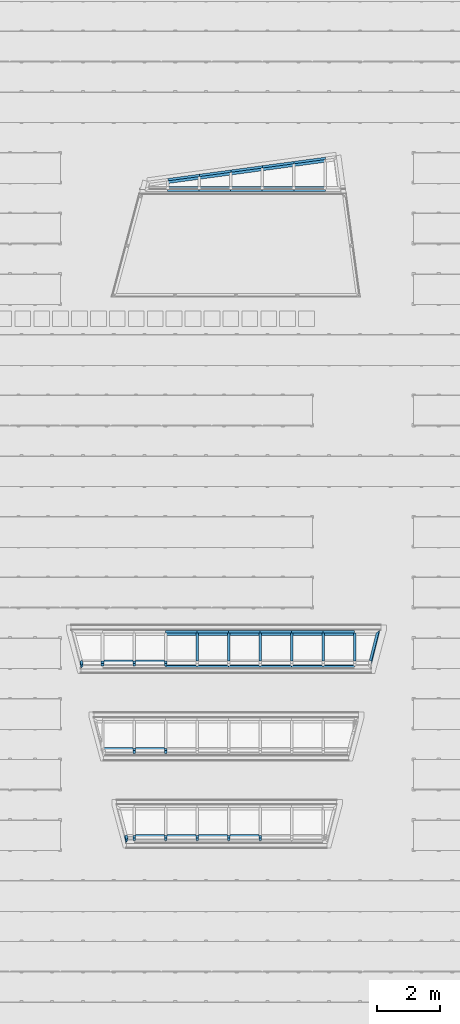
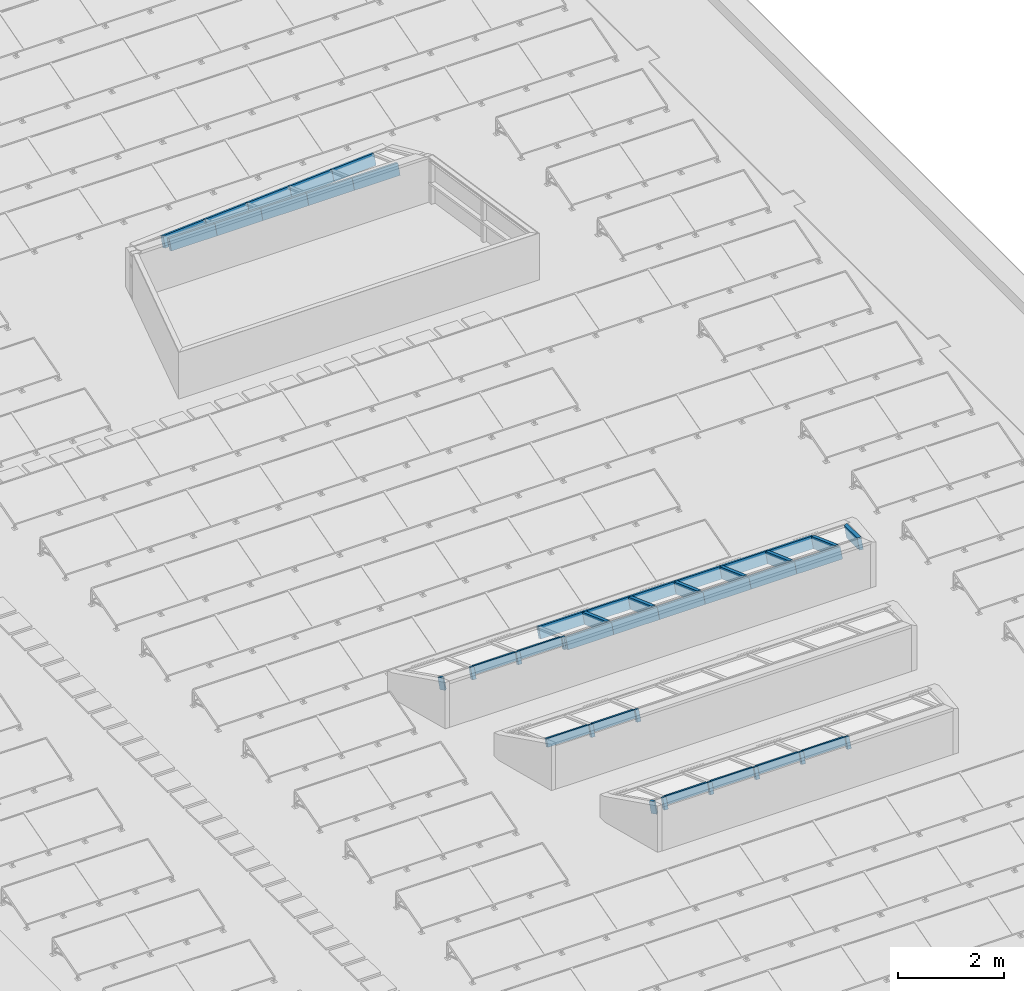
# One storey, part 2 of 20: 49 members, 4 elements without a shape of their own.
"""IFC2X3 building model written with IfcOpenShell, lengths in millimetres."""

from ifc_helpers import new_model, entity, si_unit, converted_unit, derived_unit, money_unit, direction, frame, origin_with_axes, place, context, subcontext, project, spatial, faceted_brep, source, transform, mapped, material, type_object, type_shapes, element, aggregate, save


model = new_model("IFC2X3")

# Units and contexts
model_context = context("Model", 3, precision=0.01, world=origin_with_axes(), true_north=direction((0.0, 1.0)))
plan_context = context("Plan", 3, precision=0.01, world=origin_with_axes(), true_north=direction((0.0, 1.0)))
body_context = subcontext(model_context, "Body", "Model", "MODEL_VIEW")
ifc_project = project(units=[si_unit("LENGTHUNIT", "METRE", prefix="MILLI"), si_unit("AREAUNIT", "SQUARE_METRE"), si_unit("VOLUMEUNIT", "CUBIC_METRE"), converted_unit("PLANEANGLEUNIT", "DEGREE", entity("IfcPlaneAngleMeasure", 0.0174532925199), si_unit("PLANEANGLEUNIT", "RADIAN"), dimensions=[0, 0, 0, 0, 0, 0, 0]), si_unit("SOLIDANGLEUNIT", "STERADIAN"), money_unit("EUR"), converted_unit("TIMEUNIT", "Year", entity("IfcTimeMeasure", 31556926.0), si_unit("TIMEUNIT", "SECOND"), dimensions=[0, 0, 1, 0, 0, 0, 0]), si_unit("MASSUNIT", "GRAM", prefix="KILO"), si_unit("THERMODYNAMICTEMPERATUREUNIT", "DEGREE_CELSIUS"), si_unit("LUMINOUSINTENSITYUNIT", "LUMEN"), si_unit("ENERGYUNIT", "JOULE", prefix="MEGA"), derived_unit("THERMALCONDUCTANCEUNIT", [(si_unit("POWERUNIT", "WATT"), 1), (si_unit("LENGTHUNIT", "METRE"), -1), (si_unit("THERMODYNAMICTEMPERATUREUNIT", "KELVIN"), -1)]), derived_unit("SPECIFICHEATCAPACITYUNIT", [(si_unit("ENERGYUNIT", "JOULE"), 1), (si_unit("MASSUNIT", "GRAM", prefix="KILO"), -1), (si_unit("THERMODYNAMICTEMPERATUREUNIT", "KELVIN"), -1)]), derived_unit("MASSDENSITYUNIT", [(si_unit("MASSUNIT", "GRAM", prefix="KILO"), 1), (si_unit("VOLUMEUNIT", "CUBIC_METRE"), -1)])], contexts=[model_context, plan_context])

# Site, building, storey
site_placement = place(None, origin_with_axes())
site = spatial("IfcSite", under=ifc_project, at=site_placement, Name="Site", CompositionType="ELEMENT")
building_placement = place(site_placement, origin_with_axes())
building = spatial("IfcBuilding", under=site, at=building_placement, Name="Naam gebouw", CompositionType="ELEMENT")
storey_placement = place(building_placement, frame((0.0, 0.0, 7920.0), z_axis=(0.0, 0.0, 1.0), x_axis=(1.0, 0.0, 0.0)))
storey = spatial("IfcBuildingStorey", under=building, at=storey_placement, Name="2e verdieping", CompositionType="ELEMENT", Elevation=7920.0)

# Curtain wall, members
curtain_wall_type = type_object("IfcCurtainWallType", Name="Curtain Wall Type", PredefinedType="NOTDEFINED")
curtain_wall_1_placement = place(storey_placement, frame((19106.1234546, 39361.8774302, 819.822664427), z_axis=(0.0, 0.0, 1.0), x_axis=(1.0, 0.0, 0.0)))
curtain_wall_1 = element("IfcCurtainWall", 1, at=curtain_wall_1_placement, inside=storey, type_object=curtain_wall_type, Name="21_Vliesgevel_Wand-x")
ifc_material = material(Name="Metaal - Staal AFW")
member_type_1 = type_object("IfcMemberType", Name="Boundary Frame 80 x 250", PredefinedType="MULLION")
shared_shape_1 = source(origin_with_axes(), body_context, "Body", "Brep", [
    faceted_brep([(-80.0, -200.0, -1.49766978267e-07), (-80.0, -200.0, 1000.00000025), (-80.0, 50.0, 1000.00000025), (-80.0, 50.0, -1.49766978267e-07), (0.0, -200.0, -1.49766978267e-07), (0.0, -200.0, 1000.00000025), (0.0, 50.0, 1000.00000025), (0.0, 50.0, -1.49766978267e-07)], [[[0, 1, 2, 3]], [[4, 5, 1, 0]], [[1, 5, 6, 2]], [[3, 2, 6, 7]], [[0, 3, 7, 4]], [[7, 6, 5, 4]]]),
])
member_1_placement = place(curtain_wall_1_placement, frame((-2500.0, -399.781763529, 382.086909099), z_axis=(-1.0, 3.51837314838e-09, -1.280582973e-09), x_axis=(3.74417445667e-09, 0.939692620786, -0.342020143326)))
member_1 = element("IfcMember", 2, at=member_1_placement, type_object=member_type_1, material=ifc_material, Name="_Vliesgevel - kader_Kader-x", ObjectType="MULLION", context=body_context, shape_type="MappedRepresentation", body=[
    mapped(shared_shape_1, transform((0.0, 0.0, 0.0), x_axis=(-1.0, 0.0, -4.37985229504e-10), y_axis=(0.0, -1.0, -1.20335434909e-09), z_axis=(-4.37985229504e-10, -1.20335434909e-09, 1.0))),
])
member_2_placement = place(curtain_wall_1_placement, frame((-1500.0, -399.781763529, 382.086909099), z_axis=(-1.0, 0.0, 0.0), x_axis=(0.0, 0.939692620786, -0.342020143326)))
member_2 = element("IfcMember", 3, at=member_2_placement, type_object=member_type_1, material=ifc_material, Name="_Vliesgevel - kader_Kader-x", ObjectType="MULLION", context=body_context, shape_type="MappedRepresentation", body=[
    mapped(shared_shape_1, transform((0.0, 0.0, 0.0), x_axis=(-1.0, 0.0, 0.0), y_axis=(0.0, -1.0, 0.0), z_axis=(0.0, 0.0, 1.0))),
])
member_3_placement = place(curtain_wall_1_placement, frame((-500.0, -399.781763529, 382.086909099), z_axis=(-1.0, 0.0, 0.0), x_axis=(0.0, 0.939692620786, -0.342020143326)))
member_3 = element("IfcMember", 4, at=member_3_placement, type_object=member_type_1, material=ifc_material, Name="_Vliesgevel - kader_Kader-x", ObjectType="MULLION", context=body_context, shape_type="MappedRepresentation", body=[
    mapped(shared_shape_1, transform((0.0, 0.0, 0.0), x_axis=(-1.0, 0.0, 0.0), y_axis=(0.0, -1.0, 0.0), z_axis=(0.0, 0.0, 1.0))),
])
member_4_placement = place(curtain_wall_1_placement, frame((500.0, -399.781763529, 382.086909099), z_axis=(-1.0, 0.0, 0.0), x_axis=(0.0, 0.939692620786, -0.342020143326)))
member_4 = element("IfcMember", 5, at=member_4_placement, type_object=member_type_1, material=ifc_material, Name="_Vliesgevel - kader_Kader-x", ObjectType="MULLION", context=body_context, shape_type="MappedRepresentation", body=[
    mapped(shared_shape_1, transform((0.0, 0.0, 0.0), x_axis=(-1.0, 0.0, 0.0), y_axis=(0.0, -1.0, 0.0), z_axis=(0.0, 0.0, 1.0))),
])
member_5_placement = place(curtain_wall_1_placement, frame((1500.0, -399.781763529, 382.086909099), z_axis=(-1.0, 0.0, 0.0), x_axis=(0.0, 0.939692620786, -0.342020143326)))
member_5 = element("IfcMember", 6, at=member_5_placement, type_object=member_type_1, material=ifc_material, Name="_Vliesgevel - kader_Kader-x", ObjectType="MULLION", context=body_context, shape_type="MappedRepresentation", body=[
    mapped(shared_shape_1, transform((0.0, 0.0, 0.0), x_axis=(-1.0, 0.0, 0.0), y_axis=(0.0, -1.0, 0.0), z_axis=(0.0, 0.0, 1.0))),
])

curtain_wall_2_placement = place(storey_placement, frame((13117.0960946, 24464.1241022, 780.165825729), z_axis=(0.0, 0.0, 1.0), x_axis=(1.0, 0.0, 0.0)))
curtain_wall_2 = element("IfcCurtainWall", 7, at=curtain_wall_2_placement, inside=storey, type_object=curtain_wall_type, Name="21_Vliesgevel_Wand-x")
member_6_placement = place(curtain_wall_2_placement, frame((3422.02873258, -628.292622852, 404.355344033), z_axis=(-1.0, 0.0, 0.0), x_axis=(0.0, 0.939692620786, -0.342020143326)))
member_6 = element("IfcMember", 8, at=member_6_placement, type_object=member_type_1, material=ifc_material, Name="_Vliesgevel - kader_Kader-x", ObjectType="MULLION", context=body_context, shape_type="MappedRepresentation", body=[
    mapped(shared_shape_1, transform((0.0, 0.0, 0.0), x_axis=(-1.0, 0.0, 0.0), y_axis=(0.0, -1.0, 0.0), z_axis=(0.0, 0.0, 1.0))),
])
member_7_placement = place(curtain_wall_2_placement, frame((4422.02873258, -628.292622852, 404.355344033), z_axis=(-1.0, 0.0, 0.0), x_axis=(0.0, 0.939692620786, -0.342020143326)))
member_7 = element("IfcMember", 9, at=member_7_placement, type_object=member_type_1, material=ifc_material, Name="_Vliesgevel - kader_Kader-x", ObjectType="MULLION", context=body_context, shape_type="MappedRepresentation", body=[
    mapped(shared_shape_1, transform((0.0, 0.0, 0.0), x_axis=(-1.0, 0.0, 0.0), y_axis=(0.0, -1.0, 0.0), z_axis=(0.0, 0.0, 1.0))),
])
member_8_placement = place(curtain_wall_2_placement, frame((5422.02873258, -628.292622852, 404.355344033), z_axis=(-1.0, 0.0, 0.0), x_axis=(0.0, 0.939692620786, -0.342020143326)))
member_8 = element("IfcMember", 10, at=member_8_placement, type_object=member_type_1, material=ifc_material, Name="_Vliesgevel - kader_Kader-x", ObjectType="MULLION", context=body_context, shape_type="MappedRepresentation", body=[
    mapped(shared_shape_1, transform((0.0, 0.0, 0.0), x_axis=(-1.0, 0.0, 0.0), y_axis=(0.0, -1.0, 0.0), z_axis=(0.0, 0.0, 1.0))),
])
member_9_placement = place(curtain_wall_2_placement, frame((6422.02873258, -628.292622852, 404.355344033), z_axis=(-1.0, 0.0, 0.0), x_axis=(0.0, 0.939692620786, -0.342020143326)))
member_9 = element("IfcMember", 11, at=member_9_placement, type_object=member_type_1, material=ifc_material, Name="_Vliesgevel - kader_Kader-x", ObjectType="MULLION", context=body_context, shape_type="MappedRepresentation", body=[
    mapped(shared_shape_1, transform((0.0, 0.0, 0.0), x_axis=(-1.0, 0.0, 0.0), y_axis=(0.0, -1.0, 0.0), z_axis=(0.0, 0.0, 1.0))),
])
member_10_placement = place(curtain_wall_2_placement, frame((7422.02873258, -628.292622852, 404.355344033), z_axis=(-1.0, 0.0, 0.0), x_axis=(0.0, 0.939692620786, -0.342020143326)))
member_10 = element("IfcMember", 12, at=member_10_placement, type_object=member_type_1, material=ifc_material, Name="_Vliesgevel - kader_Kader-x", ObjectType="MULLION", context=body_context, shape_type="MappedRepresentation", body=[
    mapped(shared_shape_1, transform((0.0, 0.0, 0.0), x_axis=(-1.0, 0.0, 0.0), y_axis=(0.0, -1.0, 0.0), z_axis=(0.0, 0.0, 1.0))),
])
member_11_placement = place(curtain_wall_2_placement, frame((8422.02873258, -628.292622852, 404.355344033), z_axis=(-1.0, 0.0, 0.0), x_axis=(0.0, 0.939692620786, -0.342020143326)))
member_11 = element("IfcMember", 13, at=member_11_placement, type_object=member_type_1, material=ifc_material, Name="_Vliesgevel - kader_Kader-x", ObjectType="MULLION", context=body_context, shape_type="MappedRepresentation", body=[
    mapped(shared_shape_1, transform((0.0, 0.0, 0.0), x_axis=(-1.0, 0.0, 0.0), y_axis=(0.0, -1.0, 0.0), z_axis=(0.0, 0.0, 1.0))),
])
member_12_placement = place(curtain_wall_2_placement, frame((7422.02873258, 482.66459094, -1.33306361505e-05), z_axis=(1.0, -2.66563304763e-08, 9.70211122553e-09), x_axis=(-2.83670745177e-08, -0.939692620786, 0.342020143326)))
member_12 = element("IfcMember", 14, at=member_12_placement, type_object=member_type_1, material=ifc_material, Name="_Vliesgevel - kader_Kader-x", ObjectType="MULLION", context=body_context, shape_type="MappedRepresentation", body=[
    mapped(shared_shape_1, transform((0.0, 0.0, 0.0), x_axis=(-1.0, 0.0, -3.31831741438e-09), y_axis=(0.0, -1.0, 9.11700234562e-09), z_axis=(-3.31831741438e-09, 9.11700234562e-09, 1.0))),
])
member_13_placement = place(curtain_wall_2_placement, frame((6422.02873258, 482.66459094, -1.33306361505e-05), z_axis=(1.0, 0.0, 0.0), x_axis=(0.0, -0.939692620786, 0.342020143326)))
member_13 = element("IfcMember", 15, at=member_13_placement, type_object=member_type_1, material=ifc_material, Name="_Vliesgevel - kader_Kader-x", ObjectType="MULLION", context=body_context, shape_type="MappedRepresentation", body=[
    mapped(shared_shape_1, transform((0.0, 0.0, 0.0), x_axis=(-1.0, 0.0, 0.0), y_axis=(0.0, -1.0, 0.0), z_axis=(0.0, 0.0, 1.0))),
])
member_14_placement = place(curtain_wall_2_placement, frame((5422.02873258, 482.66459094, -1.33306361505e-05), z_axis=(1.0, 0.0, 0.0), x_axis=(0.0, -0.939692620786, 0.342020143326)))
member_14 = element("IfcMember", 16, at=member_14_placement, type_object=member_type_1, material=ifc_material, Name="_Vliesgevel - kader_Kader-x", ObjectType="MULLION", context=body_context, shape_type="MappedRepresentation", body=[
    mapped(shared_shape_1, transform((0.0, 0.0, 0.0), x_axis=(-1.0, 0.0, 0.0), y_axis=(0.0, -1.0, 0.0), z_axis=(0.0, 0.0, 1.0))),
])
member_15_placement = place(curtain_wall_2_placement, frame((4422.02873258, 482.66459094, -1.33306361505e-05), z_axis=(1.0, 0.0, 0.0), x_axis=(0.0, -0.939692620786, 0.342020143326)))
member_15 = element("IfcMember", 17, at=member_15_placement, type_object=member_type_1, material=ifc_material, Name="_Vliesgevel - kader_Kader-x", ObjectType="MULLION", context=body_context, shape_type="MappedRepresentation", body=[
    mapped(shared_shape_1, transform((0.0, 0.0, 0.0), x_axis=(-1.0, 0.0, 0.0), y_axis=(0.0, -1.0, 0.0), z_axis=(0.0, 0.0, 1.0))),
])
member_16_placement = place(curtain_wall_2_placement, frame((3422.02873258, 482.66459094, -1.33306361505e-05), z_axis=(1.0, 0.0, 0.0), x_axis=(0.0, -0.939692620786, 0.342020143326)))
member_16 = element("IfcMember", 18, at=member_16_placement, type_object=member_type_1, material=ifc_material, Name="_Vliesgevel - kader_Kader-x", ObjectType="MULLION", context=body_context, shape_type="MappedRepresentation", body=[
    mapped(shared_shape_1, transform((0.0, 0.0, 0.0), x_axis=(-1.0, 0.0, 0.0), y_axis=(0.0, -1.0, 0.0), z_axis=(0.0, 0.0, 1.0))),
])
member_17_placement = place(curtain_wall_2_placement, frame((2422.02873258, 482.66459094, -1.33306361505e-05), z_axis=(1.0, 0.0, 0.0), x_axis=(0.0, -0.939692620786, 0.342020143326)))
member_17 = element("IfcMember", 19, at=member_17_placement, type_object=member_type_1, material=ifc_material, Name="_Vliesgevel - kader_Kader-x", ObjectType="MULLION", context=body_context, shape_type="MappedRepresentation", body=[
    mapped(shared_shape_1, transform((0.0, 0.0, 0.0), x_axis=(-1.0, 0.0, 0.0), y_axis=(0.0, -1.0, 0.0), z_axis=(0.0, 0.0, 1.0))),
])

# Member
shared_shape_2 = source(origin_with_axes(), body_context, "Body", "Brep", [
    faceted_brep([(-80.0, -200.0, -2.83497562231e-06), (-80.0, -200.0, 1010.33344647), (-80.0, 50.0, 1010.33344647), (-80.0, 50.0, -2.83497562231e-06), (0.0, -200.0, -2.83497562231e-06), (0.0, -200.0, 1010.33344647), (0.0, 50.0, 1010.33344647), (0.0, 50.0, -2.83497562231e-06)], [[[0, 1, 2, 3]], [[4, 5, 1, 0]], [[1, 5, 6, 2]], [[3, 2, 6, 7]], [[0, 3, 7, 4]], [[7, 6, 5, 4]]]),
])
member_18_placement = place(curtain_wall_1_placement, frame((500.0, 467.501021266, 66.4217907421), z_axis=(0.989772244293, 0.134053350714, -0.0487914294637), x_axis=(0.142656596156, -0.930081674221, 0.338522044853)))
member_18 = element("IfcMember", 20, at=member_18_placement, type_object=member_type_1, material=ifc_material, Name="_Vliesgevel - kader_Kader-x", ObjectType="MULLION", context=body_context, shape_type="MappedRepresentation", body=[
    mapped(shared_shape_2, transform((0.0, 0.0, 0.0), x_axis=(-1.0, 0.0, 0.0), y_axis=(0.0, -1.0, 0.0), z_axis=(0.0, 0.0, 1.0))),
])

member_19_placement = place(curtain_wall_1_placement, frame((-500.0, 332.062505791, 115.717378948), z_axis=(0.989772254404, 0.134053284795, -0.0487914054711), x_axis=(0.142656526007, -0.930081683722, 0.338522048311)))
member_19 = element("IfcMember", 21, at=member_19_placement, type_object=member_type_1, material=ifc_material, Name="_Vliesgevel - kader_Kader-x", ObjectType="MULLION", context=body_context, shape_type="MappedRepresentation", body=[
    mapped(shared_shape_2, transform((0.0, 0.0, 0.0), x_axis=(-1.0, 0.0, 0.0), y_axis=(0.0, -1.0, 0.0), z_axis=(0.0, 0.0, 1.0))),
])

member_20_placement = place(curtain_wall_1_placement, frame((-1500.0, 196.623990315, 165.012967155), z_axis=(0.989772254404, 0.134053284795, -0.0487914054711), x_axis=(0.142656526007, -0.930081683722, 0.338522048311)))
member_20 = element("IfcMember", 22, at=member_20_placement, type_object=member_type_1, material=ifc_material, Name="_Vliesgevel - kader_Kader-x", ObjectType="MULLION", context=body_context, shape_type="MappedRepresentation", body=[
    mapped(shared_shape_2, transform((0.0, 0.0, 0.0), x_axis=(-1.0, 0.0, 0.0), y_axis=(0.0, -1.0, 0.0), z_axis=(0.0, 0.0, 1.0))),
])

member_21_placement = place(curtain_wall_1_placement, frame((-2500.0, 61.1854748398, 214.308555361), z_axis=(0.989772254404, 0.134053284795, -0.0487914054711), x_axis=(0.142656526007, -0.930081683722, 0.338522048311)))
member_21 = element("IfcMember", 23, at=member_21_placement, type_object=member_type_1, material=ifc_material, Name="_Vliesgevel - kader_Kader-x", ObjectType="MULLION", context=body_context, shape_type="MappedRepresentation", body=[
    mapped(shared_shape_2, transform((0.0, 0.0, 0.0), x_axis=(-1.0, 0.0, 0.0), y_axis=(0.0, -1.0, 0.0), z_axis=(0.0, 0.0, 1.0))),
])

member_22_placement = place(curtain_wall_1_placement, frame((-3500.0, -74.2530406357, 263.604143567), z_axis=(0.989772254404, 0.134053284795, -0.0487914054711), x_axis=(0.142656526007, -0.930081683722, 0.338522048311)))
member_22 = element("IfcMember", 24, at=member_22_placement, type_object=member_type_1, material=ifc_material, Name="_Vliesgevel - kader_Kader-x", ObjectType="MULLION", context=body_context, shape_type="MappedRepresentation", body=[
    mapped(shared_shape_2, transform((0.0, 0.0, 0.0), x_axis=(-1.0, 0.0, 0.0), y_axis=(0.0, -1.0, 0.0), z_axis=(0.0, 0.0, 1.0))),
])

aggregate(curtain_wall_1, [member_1, member_2, member_3, member_4, member_5, member_18, member_19, member_20, member_21, member_22])

member_type_2 = type_object("IfcMemberType", Name="Mullion Frame 80 x 250", PredefinedType="MULLION")
shared_shape_3 = source(origin_with_axes(), body_context, "Body", "Brep", [
    faceted_brep([(-40.0, 50.0, 80.0), (-40.0, -200.0, 80.0), (-40.0, -200.0, 1027.28184748), (-40.0, 50.0, 1027.28184748), (40.0, 50.0, 80.0), (40.0, -200.0, 80.0), (40.0, -200.0, 1027.28184748), (40.0, 50.0, 1027.28184748)], [[[0, 1, 2, 3]], [[1, 0, 4, 5]], [[1, 5, 6, 2]], [[2, 6, 7, 3]], [[4, 0, 3, 7]], [[5, 4, 7, 6]]]),
])
member_23_placement = place(curtain_wall_2_placement, frame((3422.02873258, 482.66459094, -1.33306361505e-05), z_axis=(0.0, -0.939692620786, 0.342020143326), x_axis=(-1.0, 0.0, 0.0)))
member_23 = element("IfcMember", 25, at=member_23_placement, type_object=member_type_2, material=ifc_material, Name="_Vliesgevel - kader_Kader-x", ObjectType="MULLION", context=body_context, shape_type="MappedRepresentation", body=[
    mapped(shared_shape_3, transform((0.0, 0.0, 0.0), x_axis=(-1.0, 0.0, 0.0), y_axis=(0.0, -1.0, 0.0), z_axis=(0.0, 0.0, 1.0))),
])

member_24_placement = place(curtain_wall_2_placement, frame((5422.02873258, 482.66459094, -1.33306361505e-05), z_axis=(0.0, -0.939692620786, 0.342020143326), x_axis=(-1.0, 0.0, 0.0)))
member_24 = element("IfcMember", 26, at=member_24_placement, type_object=member_type_2, material=ifc_material, Name="_Vliesgevel - kader_Kader-x", ObjectType="MULLION", context=body_context, shape_type="MappedRepresentation", body=[
    mapped(shared_shape_3, transform((0.0, 0.0, 0.0), x_axis=(-1.0, 0.0, 0.0), y_axis=(0.0, -1.0, 0.0), z_axis=(0.0, 0.0, 1.0))),
])

member_25_placement = place(curtain_wall_2_placement, frame((8422.02873258, 482.664564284, -3.62852503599e-06), z_axis=(0.0, -0.939692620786, 0.342020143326), x_axis=(-1.0, 0.0, 0.0)))
member_25 = element("IfcMember", 27, at=member_25_placement, type_object=member_type_2, material=ifc_material, Name="_Vliesgevel - kader_Kader-x", ObjectType="MULLION", context=body_context, shape_type="MappedRepresentation", body=[
    mapped(shared_shape_3, transform((0.0, 0.0, 0.0), x_axis=(-1.0, 0.0, 0.0), y_axis=(0.0, -1.0, 0.0), z_axis=(0.0, 0.0, 1.0))),
])

member_26_placement = place(curtain_wall_2_placement, frame((7422.02873258, 482.66459094, -1.33306361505e-05), z_axis=(0.0, -0.939692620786, 0.342020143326), x_axis=(-1.0, 0.0, 0.0)))
member_26 = element("IfcMember", 28, at=member_26_placement, type_object=member_type_2, material=ifc_material, Name="_Vliesgevel - kader_Kader-x", ObjectType="MULLION", context=body_context, shape_type="MappedRepresentation", body=[
    mapped(shared_shape_3, transform((0.0, 0.0, 0.0), x_axis=(-1.0, 0.0, 0.0), y_axis=(0.0, -1.0, 0.0), z_axis=(0.0, 0.0, 1.0))),
])

member_27_placement = place(curtain_wall_2_placement, frame((6422.02873258, 482.66459094, -1.33306361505e-05), z_axis=(0.0, -0.939692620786, 0.342020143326), x_axis=(-1.0, 0.0, 0.0)))
member_27 = element("IfcMember", 29, at=member_27_placement, type_object=member_type_2, material=ifc_material, Name="_Vliesgevel - kader_Kader-x", ObjectType="MULLION", context=body_context, shape_type="MappedRepresentation", body=[
    mapped(shared_shape_3, transform((0.0, 0.0, 0.0), x_axis=(-1.0, 0.0, 0.0), y_axis=(0.0, -1.0, 0.0), z_axis=(0.0, 0.0, 1.0))),
])

member_28_placement = place(curtain_wall_2_placement, frame((4422.02873258, 482.66459094, -1.33306361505e-05), z_axis=(0.0, -0.939692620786, 0.342020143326), x_axis=(-1.0, 0.0, 0.0)))
member_28 = element("IfcMember", 30, at=member_28_placement, type_object=member_type_2, material=ifc_material, Name="_Vliesgevel - kader_Kader-x", ObjectType="MULLION", context=body_context, shape_type="MappedRepresentation", body=[
    mapped(shared_shape_3, transform((0.0, 0.0, 0.0), x_axis=(-1.0, 0.0, 0.0), y_axis=(0.0, -1.0, 0.0), z_axis=(0.0, 0.0, 1.0))),
])

member_type_3 = type_object("IfcMemberType", Name="Transom Frame 70 x 175", PredefinedType="MULLION")
shared_shape_4 = source(origin_with_axes(), body_context, "Body", "Brep", [
    faceted_brep([(-35.0, 50.0, 40.0), (-35.0, -125.0, 40.0), (-35.0, -125.0, 960.0), (-35.0, 50.0, 960.0), (35.0, 50.0, 40.0), (35.0, -125.0, 40.0), (35.0, -125.0, 960.0), (35.0, 50.0, 960.0)], [[[0, 1, 2, 3]], [[1, 0, 4, 5]], [[1, 5, 6, 2]], [[2, 6, 7, 3]], [[4, 0, 3, 7]], [[5, 4, 7, 6]]]),
])
type_shapes(member_type_3, [shared_shape_4])
member_29_placement = place(curtain_wall_2_placement, frame((422.028732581, -482.664580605, 351.351071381), z_axis=(1.0, 0.0, 0.0), x_axis=(0.0, -0.939692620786, 0.342020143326)))
member_29 = element("IfcMember", 31, at=member_29_placement, type_object=member_type_3, material=ifc_material, Name="_Vliesgevel - kader_Kader-x", ObjectType="MULLION", context=body_context, shape_type="MappedRepresentation", body=[
    mapped(shared_shape_4, transform((0.0, 0.0, 0.0), x_axis=(-1.0, 0.0, 0.0), y_axis=(0.0, -1.0, 0.0), z_axis=(0.0, 0.0, 1.0))),
])

member_30_placement = place(curtain_wall_2_placement, frame((1422.02873258, -482.664580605, 351.351071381), z_axis=(1.0, 0.0, 0.0), x_axis=(0.0, -0.939692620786, 0.342020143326)))
member_30 = element("IfcMember", 32, at=member_30_placement, type_object=member_type_3, material=ifc_material, Name="_Vliesgevel - kader_Kader-x", ObjectType="MULLION", context=body_context, shape_type="MappedRepresentation", body=[
    mapped(shared_shape_4, transform((0.0, 0.0, 0.0), x_axis=(-1.0, 0.0, 0.0), y_axis=(0.0, -1.0, 0.0), z_axis=(0.0, 0.0, 1.0))),
])

# Curtain wall, members
curtain_wall_3_placement = place(storey_placement, frame((20039.1248272, 21694.0652432, 780.165825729), z_axis=(0.0, 0.0, 1.0), x_axis=(1.0, 0.0, 0.0)))
curtain_wall_3 = element("IfcCurtainWall", 33, at=curtain_wall_3_placement, inside=storey, type_object=curtain_wall_type, Name="21_Vliesgevel_Wand-x")
member_31_placement = place(curtain_wall_3_placement, frame((-6500.0, -482.664585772, 351.351071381), z_axis=(1.0, 0.0, 0.0), x_axis=(0.0, -0.939692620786, 0.342020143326)))
member_31 = element("IfcMember", 34, at=member_31_placement, type_object=member_type_3, material=ifc_material, Name="_Vliesgevel - kader_Kader-x", ObjectType="MULLION", context=body_context, shape_type="MappedRepresentation", body=[
    mapped(shared_shape_4, transform((0.0, 0.0, 0.0), x_axis=(-1.0, 0.0, 0.0), y_axis=(0.0, -1.0, 0.0), z_axis=(0.0, 0.0, 1.0))),
])
member_32_placement = place(curtain_wall_3_placement, frame((-5500.0, -482.664585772, 351.351071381), z_axis=(1.0, 0.0, 0.0), x_axis=(0.0, -0.939692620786, 0.342020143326)))
member_32 = element("IfcMember", 35, at=member_32_placement, type_object=member_type_3, material=ifc_material, Name="_Vliesgevel - kader_Kader-x", ObjectType="MULLION", context=body_context, shape_type="MappedRepresentation", body=[
    mapped(shared_shape_4, transform((0.0, 0.0, 0.0), x_axis=(-1.0, 0.0, 0.0), y_axis=(0.0, -1.0, 0.0), z_axis=(0.0, 0.0, 1.0))),
])

curtain_wall_4_placement = place(storey_placement, frame((20039.1248272, 18928.1634329, 780.165825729), z_axis=(0.0, 0.0, 1.0), x_axis=(1.0, 0.0, 0.0)))
curtain_wall_4 = element("IfcCurtainWall", 36, at=curtain_wall_4_placement, inside=storey, type_object=curtain_wall_type, Name="21_Vliesgevel_Wand-x")
member_33_placement = place(curtain_wall_4_placement, frame((-4500.0, -482.664585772, 351.351071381), z_axis=(1.0, 0.0, 0.0), x_axis=(0.0, -0.939692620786, 0.342020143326)))
member_33 = element("IfcMember", 37, at=member_33_placement, type_object=member_type_3, material=ifc_material, Name="_Vliesgevel - kader_Kader-x", ObjectType="MULLION", context=body_context, shape_type="MappedRepresentation", body=[
    mapped(shared_shape_4, transform((0.0, 0.0, 0.0), x_axis=(-1.0, 0.0, 0.0), y_axis=(0.0, -1.0, 0.0), z_axis=(0.0, 0.0, 1.0))),
])
member_34_placement = place(curtain_wall_4_placement, frame((-2500.0, -482.664585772, 351.351071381), z_axis=(1.0, 0.0, 0.0), x_axis=(0.0, -0.939692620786, 0.342020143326)))
member_34 = element("IfcMember", 38, at=member_34_placement, type_object=member_type_3, material=ifc_material, Name="_Vliesgevel - kader_Kader-x", ObjectType="MULLION", context=body_context, shape_type="MappedRepresentation", body=[
    mapped(shared_shape_4, transform((0.0, 0.0, 0.0), x_axis=(-1.0, 0.0, 0.0), y_axis=(0.0, -1.0, 0.0), z_axis=(0.0, 0.0, 1.0))),
])
member_35_placement = place(curtain_wall_4_placement, frame((-5500.0, -482.664585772, 351.351071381), z_axis=(1.0, 0.0, 0.0), x_axis=(0.0, -0.939692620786, 0.342020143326)))
member_35 = element("IfcMember", 39, at=member_35_placement, type_object=member_type_3, material=ifc_material, Name="_Vliesgevel - kader_Kader-x", ObjectType="MULLION", context=body_context, shape_type="MappedRepresentation", body=[
    mapped(shared_shape_4, transform((0.0, 0.0, 0.0), x_axis=(-1.0, 0.0, 0.0), y_axis=(0.0, -1.0, 0.0), z_axis=(0.0, 0.0, 1.0))),
])
member_36_placement = place(curtain_wall_4_placement, frame((-3500.0, -482.664585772, 351.351071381), z_axis=(1.0, 0.0, 0.0), x_axis=(0.0, -0.939692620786, 0.342020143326)))
member_36 = element("IfcMember", 40, at=member_36_placement, type_object=member_type_3, material=ifc_material, Name="_Vliesgevel - kader_Kader-x", ObjectType="MULLION", context=body_context, shape_type="MappedRepresentation", body=[
    mapped(shared_shape_4, transform((0.0, 0.0, 0.0), x_axis=(-1.0, 0.0, 0.0), y_axis=(0.0, -1.0, 0.0), z_axis=(0.0, 0.0, 1.0))),
])

# Member
shared_shape_5 = source(origin_with_axes(), body_context, "Body", "Brep", [
    faceted_brep([(-80.0, 50.0, 62.6034239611), (-80.0, -200.0, 62.6034239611), (-80.0, -200.0, 159.656568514), (-80.0, 50.0, 159.656568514), (0.0, 50.0, 0.0), (0.0, -200.0, 0.0), (0.0, -200.0, 159.656568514), (0.0, 50.0, 159.656568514)], [[[0, 1, 2, 3]], [[1, 0, 4, 5]], [[1, 5, 6, 2]], [[2, 6, 7, 3]], [[4, 0, 3, 7]], [[5, 4, 7, 6]]]),
])
member_37_placement = place(curtain_wall_2_placement, frame((-256.432159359, -628.292648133, 404.355353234), z_axis=(-0.240407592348, 0.912133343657, -0.331989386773), x_axis=(0.970672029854, 0.22590924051, -0.0822242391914)))
member_37 = element("IfcMember", 41, at=member_37_placement, type_object=member_type_1, material=ifc_material, Name="_Vliesgevel - kader_Kader-x", ObjectType="MULLION", context=body_context, shape_type="MappedRepresentation", body=[
    mapped(shared_shape_5, transform((0.0, 0.0, 0.0), x_axis=(-1.0, 0.0, 0.0), y_axis=(0.0, -1.0, 0.0), z_axis=(0.0, 0.0, 1.0))),
])

member_38_placement = place(curtain_wall_4_placement, frame((-5757.74751483, -628.292634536, 404.355346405), z_axis=(-0.240407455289, 0.912133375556, -0.331989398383), x_axis=(0.9706720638, 0.225909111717, -0.0822241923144)))
member_38 = element("IfcMember", 42, at=member_38_placement, type_object=member_type_1, material=ifc_material, Name="_Vliesgevel - kader_Kader-x", ObjectType="MULLION", context=body_context, shape_type="MappedRepresentation", body=[
    mapped(shared_shape_5, transform((0.0, 0.0, 0.0), x_axis=(-1.0, 0.0, 0.0), y_axis=(0.0, -1.0, 0.0), z_axis=(0.0, 0.0, 1.0))),
])

shared_shape_6 = source(origin_with_axes(), body_context, "Body", "Brep", [
    faceted_brep([(-40.0, -200.0, 0.0), (-40.0, -200.0, 74.9741525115), (-40.0, 50.0, 74.9741525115), (-40.0, 50.0, 0.0), (40.0, -200.0, 0.0), (40.0, -200.0, 74.9741525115), (40.0, 50.0, 74.9741525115), (40.0, 50.0, 0.0)], [[[0, 1, 2, 3]], [[4, 5, 1, 0]], [[1, 5, 6, 2]], [[3, 2, 6, 7]], [[0, 3, 7, 4]], [[7, 6, 5, 4]]]),
])
type_shapes(member_type_2, [shared_shape_3, shared_shape_6])
member_39_placement = place(curtain_wall_2_placement, frame((422.028732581, -482.664580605, 351.351071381), z_axis=(0.0, -0.939692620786, 0.342020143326), x_axis=(-1.0, 0.0, 0.0)))
member_39 = element("IfcMember", 43, at=member_39_placement, type_object=member_type_2, material=ifc_material, Name="_Vliesgevel - kader_Kader-x", ObjectType="MULLION", context=body_context, shape_type="MappedRepresentation", body=[
    mapped(shared_shape_6, transform((0.0, 0.0, 0.0), x_axis=(-1.0, 0.0, 0.0), y_axis=(0.0, -1.0, 0.0), z_axis=(0.0, 0.0, 1.0))),
])

member_40_placement = place(curtain_wall_2_placement, frame((1422.02873258, -482.664580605, 351.351071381), z_axis=(0.0, -0.939692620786, 0.342020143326), x_axis=(-1.0, 0.0, 0.0)))
member_40 = element("IfcMember", 44, at=member_40_placement, type_object=member_type_2, material=ifc_material, Name="_Vliesgevel - kader_Kader-x", ObjectType="MULLION", context=body_context, shape_type="MappedRepresentation", body=[
    mapped(shared_shape_6, transform((0.0, 0.0, 0.0), x_axis=(-1.0, 0.0, 0.0), y_axis=(0.0, -1.0, 0.0), z_axis=(0.0, 0.0, 1.0))),
])

member_41_placement = place(curtain_wall_2_placement, frame((2422.02873258, -482.664580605, 351.351071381), z_axis=(0.0, -0.939692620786, 0.342020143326), x_axis=(-1.0, 0.0, 0.0)))
member_41 = element("IfcMember", 45, at=member_41_placement, type_object=member_type_2, material=ifc_material, Name="_Vliesgevel - kader_Kader-x", ObjectType="MULLION", context=body_context, shape_type="MappedRepresentation", body=[
    mapped(shared_shape_6, transform((0.0, 0.0, 0.0), x_axis=(-1.0, 0.0, 0.0), y_axis=(0.0, -1.0, 0.0), z_axis=(0.0, 0.0, 1.0))),
])

member_42_placement = place(curtain_wall_3_placement, frame((-4500.0, -482.664585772, 351.351071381), z_axis=(0.0, -0.939692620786, 0.342020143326), x_axis=(-1.0, 0.0, 0.0)))
member_42 = element("IfcMember", 46, at=member_42_placement, type_object=member_type_2, material=ifc_material, Name="_Vliesgevel - kader_Kader-x", ObjectType="MULLION", context=body_context, shape_type="MappedRepresentation", body=[
    mapped(shared_shape_6, transform((0.0, 0.0, 0.0), x_axis=(-1.0, 0.0, 0.0), y_axis=(0.0, -1.0, 0.0), z_axis=(0.0, 0.0, 1.0))),
])

member_43_placement = place(curtain_wall_3_placement, frame((-5500.0, -482.664585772, 351.351071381), z_axis=(0.0, -0.939692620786, 0.342020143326), x_axis=(-1.0, 0.0, 0.0)))
member_43 = element("IfcMember", 47, at=member_43_placement, type_object=member_type_2, material=ifc_material, Name="_Vliesgevel - kader_Kader-x", ObjectType="MULLION", context=body_context, shape_type="MappedRepresentation", body=[
    mapped(shared_shape_6, transform((0.0, 0.0, 0.0), x_axis=(-1.0, 0.0, 0.0), y_axis=(0.0, -1.0, 0.0), z_axis=(0.0, 0.0, 1.0))),
])

aggregate(curtain_wall_3, [member_42, member_31, member_32, member_43])

member_44_placement = place(curtain_wall_4_placement, frame((-2500.0, -482.664585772, 351.351071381), z_axis=(0.0, -0.939692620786, 0.342020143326), x_axis=(-1.0, 0.0, 0.0)))
member_44 = element("IfcMember", 48, at=member_44_placement, type_object=member_type_2, material=ifc_material, Name="_Vliesgevel - kader_Kader-x", ObjectType="MULLION", context=body_context, shape_type="MappedRepresentation", body=[
    mapped(shared_shape_6, transform((0.0, 0.0, 0.0), x_axis=(-1.0, 0.0, 0.0), y_axis=(0.0, -1.0, 0.0), z_axis=(0.0, 0.0, 1.0))),
])

member_45_placement = place(curtain_wall_4_placement, frame((-4500.0, -482.664585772, 351.351071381), z_axis=(0.0, -0.939692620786, 0.342020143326), x_axis=(-1.0, 0.0, 0.0)))
member_45 = element("IfcMember", 49, at=member_45_placement, type_object=member_type_2, material=ifc_material, Name="_Vliesgevel - kader_Kader-x", ObjectType="MULLION", context=body_context, shape_type="MappedRepresentation", body=[
    mapped(shared_shape_6, transform((0.0, 0.0, 0.0), x_axis=(-1.0, 0.0, 0.0), y_axis=(0.0, -1.0, 0.0), z_axis=(0.0, 0.0, 1.0))),
])

member_46_placement = place(curtain_wall_4_placement, frame((-3500.0, -482.664585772, 351.351071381), z_axis=(0.0, -0.939692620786, 0.342020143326), x_axis=(-1.0, 0.0, 0.0)))
member_46 = element("IfcMember", 50, at=member_46_placement, type_object=member_type_2, material=ifc_material, Name="_Vliesgevel - kader_Kader-x", ObjectType="MULLION", context=body_context, shape_type="MappedRepresentation", body=[
    mapped(shared_shape_6, transform((0.0, 0.0, 0.0), x_axis=(-1.0, 0.0, 0.0), y_axis=(0.0, -1.0, 0.0), z_axis=(0.0, 0.0, 1.0))),
])

member_47_placement = place(curtain_wall_4_placement, frame((-5500.0, -482.664585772, 351.351071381), z_axis=(0.0, -0.939692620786, 0.342020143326), x_axis=(-1.0, 0.0, 0.0)))
member_47 = element("IfcMember", 51, at=member_47_placement, type_object=member_type_2, material=ifc_material, Name="_Vliesgevel - kader_Kader-x", ObjectType="MULLION", context=body_context, shape_type="MappedRepresentation", body=[
    mapped(shared_shape_6, transform((0.0, 0.0, 0.0), x_axis=(-1.0, 0.0, 0.0), y_axis=(0.0, -1.0, 0.0), z_axis=(0.0, 0.0, 1.0))),
])

member_48_placement = place(curtain_wall_4_placement, frame((-1500.0, -482.664585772, 351.351071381), z_axis=(0.0, -0.939692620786, 0.342020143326), x_axis=(-1.0, 0.0, 0.0)))
member_48 = element("IfcMember", 52, at=member_48_placement, type_object=member_type_2, material=ifc_material, Name="_Vliesgevel - kader_Kader-x", ObjectType="MULLION", context=body_context, shape_type="MappedRepresentation", body=[
    mapped(shared_shape_6, transform((0.0, 0.0, 0.0), x_axis=(-1.0, 0.0, 0.0), y_axis=(0.0, -1.0, 0.0), z_axis=(0.0, 0.0, 1.0))),
])

aggregate(curtain_wall_4, [member_44, member_45, member_33, member_34, member_35, member_36, member_46, member_47, member_48, member_38])

shared_shape_7 = source(origin_with_axes(), body_context, "Body", "Brep", [
    faceted_brep([(-80.0, 50.0, 101.250572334), (-80.0, -200.0, 101.250572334), (-80.0, -200.0, 1055.91791012), (-80.0, 50.0, 1055.91791012), (0.0, 50.0, 0.0), (0.0, -200.0, 0.0), (0.0, -200.0, 1055.91791012), (0.0, 50.0, 1055.91791012)], [[[0, 1, 2, 3]], [[1, 0, 4, 5]], [[1, 5, 6, 2]], [[2, 6, 7, 3]], [[4, 0, 3, 7]], [[5, 4, 7, 6]]]),
])
type_shapes(member_type_1, [shared_shape_1, shared_shape_2, shared_shape_5, shared_shape_7])
member_49_placement = place(curtain_wall_2_placement, frame((9203.72263148, 482.664564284, -3.62852503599e-06), z_axis=(-0.231308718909, -0.914208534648, 0.332744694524), x_axis=(-0.97288040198, 0.217359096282, -0.0791122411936)))
member_49 = element("IfcMember", 53, at=member_49_placement, type_object=member_type_1, material=ifc_material, Name="_Vliesgevel - kader_Kader-x", ObjectType="MULLION", context=body_context, shape_type="MappedRepresentation", body=[
    mapped(shared_shape_7, transform((0.0, 0.0, 0.0), x_axis=(-1.0, 0.0, 0.0), y_axis=(0.0, -1.0, 0.0), z_axis=(0.0, 0.0, 1.0))),
])

aggregate(curtain_wall_2, [member_23, member_24, member_25, member_26, member_27, member_28, member_29, member_30, member_37, member_39, member_40, member_41, member_6, member_7, member_8, member_9, member_10, member_11, member_49, member_12, member_13, member_14, member_15, member_16, member_17])

save(model, "model.ifc")
